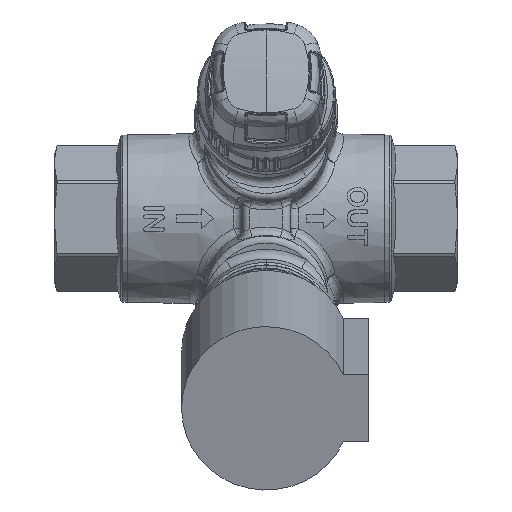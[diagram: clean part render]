
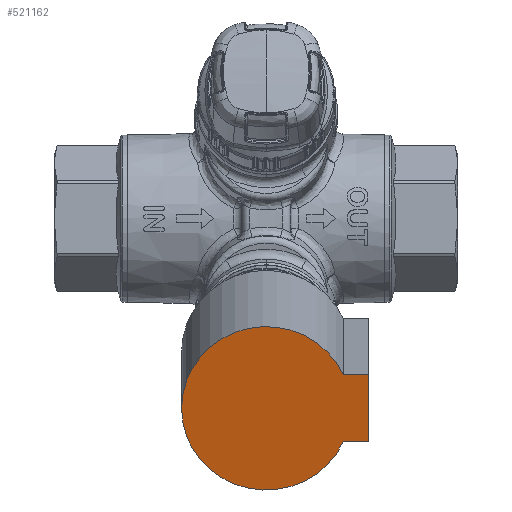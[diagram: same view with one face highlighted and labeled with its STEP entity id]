
A CAD part, top view. The second image highlights one B-rep face of the part: STEP entity #521162.
In plain terms, the highlighted planar face has unit normal (0, -0.259, 0.966).
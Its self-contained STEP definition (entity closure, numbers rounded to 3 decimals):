
#520858 = PLANE('',#520859);
#520859 = AXIS2_PLACEMENT_3D('',#520860,#520861,#520862);
#520860 = CARTESIAN_POINT('',(17.529,29.514,
    120.937));
#520861 = DIRECTION('',(0.,0.966,0.259));
#520862 = DIRECTION('',(0.,-0.259,0.966));
#520891 = CYLINDRICAL_SURFACE('',#520892,20.766);
#520892 = AXIS2_PLACEMENT_3D('',#520893,#520894,#520895);
#520893 = CARTESIAN_POINT('',(1.101,30.815,
    149.059));
#520894 = DIRECTION('',(0.,0.259,-0.966));
#520895 = DIRECTION('',(1.,0.,0.));
#520919 = PLANE('',#520920);
#520920 = AXIS2_PLACEMENT_3D('',#520921,#520922,#520923);
#520921 = CARTESIAN_POINT('',(17.529,46.004,
    125.356));
#520922 = DIRECTION('',(0.,0.966,0.259));
#520923 = DIRECTION('',(0.,-0.259,0.966));
#520945 = PLANE('',#520946);
#520946 = AXIS2_PLACEMENT_3D('',#520947,#520948,#520949);
#520947 = CARTESIAN_POINT('',(26.327,46.004,
    125.356));
#520948 = DIRECTION('',(1.,0.,0.));
#520949 = DIRECTION('',(0.,-0.259,0.966));
#520992 = VERTEX_POINT('',#520993);
#520993 = CARTESIAN_POINT('',(20.032,22.57,
    146.85));
#521014 = EDGE_CURVE('',#521015,#520992,#521017,.T.);
#521015 = VERTEX_POINT('',#521016);
#521016 = CARTESIAN_POINT('',(20.032,39.06,
    151.269));
#521017 = SURFACE_CURVE('',#521018,(#521023,#521030),.PCURVE_S1.);
#521018 = CIRCLE('',#521019,20.766);
#521019 = AXIS2_PLACEMENT_3D('',#521020,#521021,#521022);
#521020 = CARTESIAN_POINT('',(1.101,30.815,
    149.059));
#521021 = DIRECTION('',(0.,-0.259,0.966));
#521022 = DIRECTION('',(1.,0.,0.));
#521023 = PCURVE('',#520891,#521024);
#521024 = DEFINITIONAL_REPRESENTATION('',(#521025),#521029);
#521025 = LINE('',#521026,#521027);
#521026 = CARTESIAN_POINT('',(6.283,0.));
#521027 = VECTOR('',#521028,1.);
#521028 = DIRECTION('',(-1.,0.));
#521029 = ( GEOMETRIC_REPRESENTATION_CONTEXT(2) 
PARAMETRIC_REPRESENTATION_CONTEXT() REPRESENTATION_CONTEXT('2D SPACE',''
  ) );
#521030 = PCURVE('',#521031,#521036);
#521031 = PLANE('',#521032);
#521032 = AXIS2_PLACEMENT_3D('',#521033,#521034,#521035);
#521033 = CARTESIAN_POINT('',(24.097,39.06,
    151.269));
#521034 = DIRECTION('',(0.,-0.259,0.966));
#521035 = DIRECTION('',(-1.,0.,0.));
#521036 = DEFINITIONAL_REPRESENTATION('',(#521037),#521041);
#521037 = CIRCLE('',#521038,20.766);
#521038 = AXIS2_PLACEMENT_2D('',#521039,#521040);
#521039 = CARTESIAN_POINT('',(22.996,8.536));
#521040 = DIRECTION('',(-1.,-0.));
#521041 = ( GEOMETRIC_REPRESENTATION_CONTEXT(2) 
PARAMETRIC_REPRESENTATION_CONTEXT() REPRESENTATION_CONTEXT('2D SPACE',''
  ) );
#521069 = EDGE_CURVE('',#521015,#521070,#521072,.T.);
#521070 = VERTEX_POINT('',#521071);
#521071 = CARTESIAN_POINT('',(26.327,39.06,
    151.269));
#521072 = SURFACE_CURVE('',#521073,(#521077,#521084),.PCURVE_S1.);
#521073 = LINE('',#521074,#521075);
#521074 = CARTESIAN_POINT('',(21.867,39.06,
    151.269));
#521075 = VECTOR('',#521076,1.);
#521076 = DIRECTION('',(1.,0.,0.));
#521077 = PCURVE('',#520919,#521078);
#521078 = DEFINITIONAL_REPRESENTATION('',(#521079),#521083);
#521079 = LINE('',#521080,#521081);
#521080 = CARTESIAN_POINT('',(26.827,4.338));
#521081 = VECTOR('',#521082,1.);
#521082 = DIRECTION('',(0.,1.));
#521083 = ( GEOMETRIC_REPRESENTATION_CONTEXT(2) 
PARAMETRIC_REPRESENTATION_CONTEXT() REPRESENTATION_CONTEXT('2D SPACE',''
  ) );
#521084 = PCURVE('',#521031,#521085);
#521085 = DEFINITIONAL_REPRESENTATION('',(#521086),#521090);
#521086 = LINE('',#521087,#521088);
#521087 = CARTESIAN_POINT('',(2.23,0.));
#521088 = VECTOR('',#521089,1.);
#521089 = DIRECTION('',(-1.,-0.));
#521090 = ( GEOMETRIC_REPRESENTATION_CONTEXT(2) 
PARAMETRIC_REPRESENTATION_CONTEXT() REPRESENTATION_CONTEXT('2D SPACE',''
  ) );
#521118 = VERTEX_POINT('',#521119);
#521119 = CARTESIAN_POINT('',(26.327,22.57,
    146.85));
#521142 = EDGE_CURVE('',#521070,#521118,#521143,.T.);
#521143 = SURFACE_CURVE('',#521144,(#521148,#521155),.PCURVE_S1.);
#521144 = LINE('',#521145,#521146);
#521145 = CARTESIAN_POINT('',(26.327,39.06,
    151.269));
#521146 = VECTOR('',#521147,1.);
#521147 = DIRECTION('',(0.,-0.966,-0.259));
#521148 = PCURVE('',#520945,#521149);
#521149 = DEFINITIONAL_REPRESENTATION('',(#521150),#521154);
#521150 = LINE('',#521151,#521152);
#521151 = CARTESIAN_POINT('',(26.827,0.));
#521152 = VECTOR('',#521153,1.);
#521153 = DIRECTION('',(0.,1.));
#521154 = ( GEOMETRIC_REPRESENTATION_CONTEXT(2) 
PARAMETRIC_REPRESENTATION_CONTEXT() REPRESENTATION_CONTEXT('2D SPACE',''
  ) );
#521155 = PCURVE('',#521031,#521156);
#521156 = DEFINITIONAL_REPRESENTATION('',(#521157),#521161);
#521157 = LINE('',#521158,#521159);
#521158 = CARTESIAN_POINT('',(-2.23,-0.));
#521159 = VECTOR('',#521160,1.);
#521160 = DIRECTION('',(-0.,1.));
#521161 = ( GEOMETRIC_REPRESENTATION_CONTEXT(2) 
PARAMETRIC_REPRESENTATION_CONTEXT() REPRESENTATION_CONTEXT('2D SPACE',''
  ) );
#521162 = ADVANCED_FACE('',(#521163),#521031,.T.);
#521163 = FACE_BOUND('',#521164,.T.);
#521164 = EDGE_LOOP('',(#521165,#521166,#521187,#521188));
#521165 = ORIENTED_EDGE('',*,*,#521014,.T.);
#521166 = ORIENTED_EDGE('',*,*,#521167,.T.);
#521167 = EDGE_CURVE('',#520992,#521118,#521168,.T.);
#521168 = SURFACE_CURVE('',#521169,(#521173,#521180),.PCURVE_S1.);
#521169 = LINE('',#521170,#521171);
#521170 = CARTESIAN_POINT('',(8.73,22.57,
    146.85));
#521171 = VECTOR('',#521172,1.);
#521172 = DIRECTION('',(1.,0.,0.));
#521173 = PCURVE('',#521031,#521174);
#521174 = DEFINITIONAL_REPRESENTATION('',(#521175),#521179);
#521175 = LINE('',#521176,#521177);
#521176 = CARTESIAN_POINT('',(15.366,17.072));
#521177 = VECTOR('',#521178,1.);
#521178 = DIRECTION('',(-1.,-0.));
#521179 = ( GEOMETRIC_REPRESENTATION_CONTEXT(2) 
PARAMETRIC_REPRESENTATION_CONTEXT() REPRESENTATION_CONTEXT('2D SPACE',''
  ) );
#521180 = PCURVE('',#520858,#521181);
#521181 = DEFINITIONAL_REPRESENTATION('',(#521182),#521186);
#521182 = LINE('',#521183,#521184);
#521183 = CARTESIAN_POINT('',(26.827,-8.798));
#521184 = VECTOR('',#521185,1.);
#521185 = DIRECTION('',(0.,1.));
#521186 = ( GEOMETRIC_REPRESENTATION_CONTEXT(2) 
PARAMETRIC_REPRESENTATION_CONTEXT() REPRESENTATION_CONTEXT('2D SPACE',''
  ) );
#521187 = ORIENTED_EDGE('',*,*,#521142,.F.);
#521188 = ORIENTED_EDGE('',*,*,#521069,.F.);
